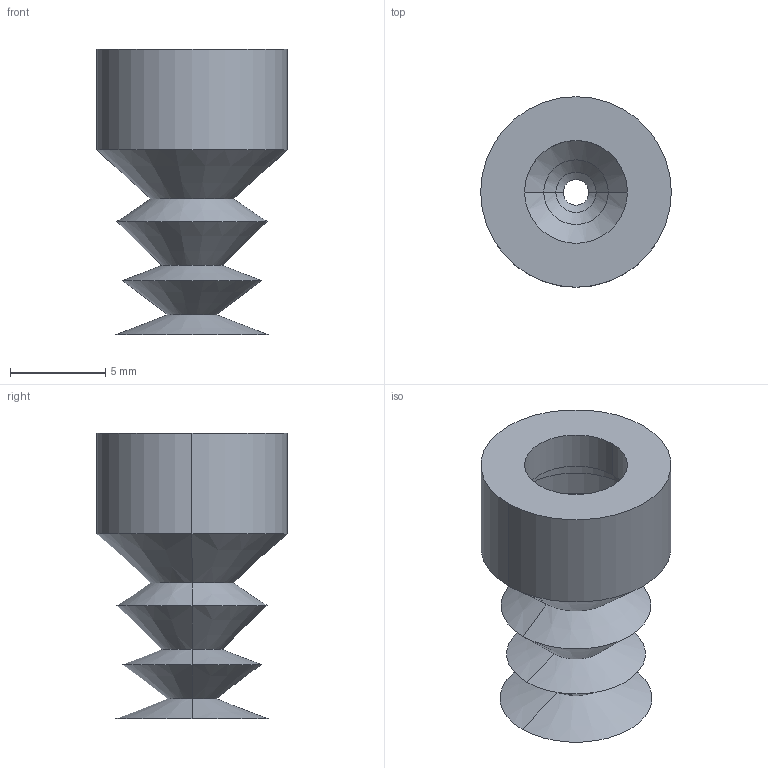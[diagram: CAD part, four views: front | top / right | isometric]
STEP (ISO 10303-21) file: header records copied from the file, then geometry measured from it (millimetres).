
FILE_DESCRIPTION (( 'STEP AP214' ), '1' );
FILE_NAME ('VSH3-S8.STEP', '2019-12-02T08:10:25', ( '微软用户' ), ( '微软中国' ), 'SwSTEP 2.0', 'SolidWorks 2016', '' );
FILE_SCHEMA (( 'AUTOMOTIVE_DESIGN' ));
Length unit declared in the file: millimetre
Products named in the file (1): VSH3-S8
Bounding box: 10 x 10 x 15 mm (x, y, z)
Volume: 257.6 mm3; surface area: 979.7 mm2
Topology: 1 solids, 1 shells, 36 faces, 72 edges, 40 vertices
Faces by surface type: cone 24, cylinder 8, plane 4
Entity records: 962 total; most frequent: DIRECTION 186, CARTESIAN_POINT 149, ORIENTED_EDGE 144, AXIS2_PLACEMENT_3D 77, EDGE_CURVE 72, CIRCLE 40, EDGE_LOOP 40, VERTEX_POINT 40
